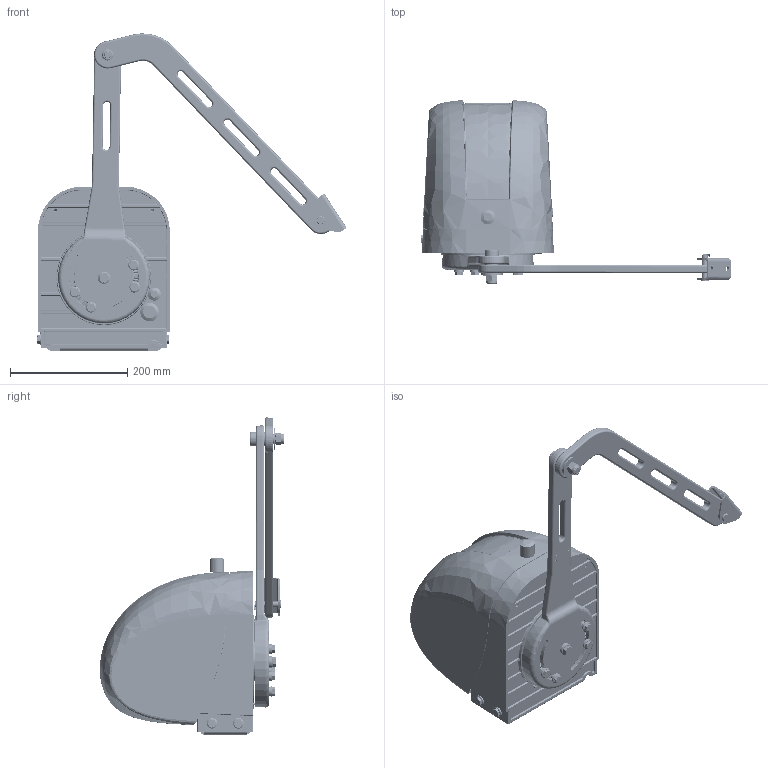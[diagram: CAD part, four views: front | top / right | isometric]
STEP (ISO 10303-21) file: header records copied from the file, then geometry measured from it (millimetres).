
FILE_DESCRIPTION (( 'STEP AP214' ), '1' );
FILE_NAME ('471V000_Knickarm.STEP', '2014-12-18T06:43:04', ( 'Admin' ), ( '' ), 'SwSTEP 2.0', 'SolidWorks 2014', '' );
FILE_SCHEMA (( 'AUTOMOTIVE_DESIGN' ));
Length unit declared in the file: millimetre
Products named in the file (70): 10029V000_Exzenter_Notentriegelung; 14725V000_Druckfeder_1,4x15x39; 10131V000_Niederhalter_Mikroschalter; M3x16_DIN7500TXCVZ; 14723_1-2_Klammer_Schloss_05; 10034V000_Motorflansch_Bearbeitet; 12314_Erdungsklemme_Roesch_248_738_009_4_2; 12229_Schraube_Taptite_M4x14; 50756_Spann-Sicherungsscheibe_gezahnt_M4; 14723_1-1_Schlüssel_05; 10114V000_Haube; 10143V000_Trafo_Halteblech; 14723V000_Burg H2A211_90 SA ( R )_E_05; 10028V000_Grundgehäuse; 50748_M10x20_DIN158_W158100VZ1020; 10525V000_eagle_200VA; 80105_M10x35_DIN158_W158100VZ1035; 10132V000_Niederhalter_Anschlag; 50744_M8x20_DIN158_W158100VZ820; 10128V000_igus_JFM-3539-16; 40028_Kombi_Blechschraube-6,5x19; 50742_Scheibe_DIN9021VZ13; 471V000_Knickarm; 50746_Sicherungsscheibe_RIPLOCK_53065STZL8; 10135V000_Bosch-AH_Motor_0_390_203_001; BG_Platine_Deckel; 14605V000_Mutter_Stop_M12_DIN 985 -6,8; 10126V000_Anschlusskabel_für_Bosch_AHC-P_Getriebemotor; Sicherungshalter_Platine; 40007_Sicherung KL10 f黵 8er Nut; 50747_Sicherungsscheibe_RIPLOCK_53065STZL10; 3940-2041_CrimpHousing; xP183_1_1801_Gehäuse_Housing_20140324; 10136V000_Ben-Bolzen10x45x39; Litze_250_gr黱; Funkmodul; 50741_Passschraube_M12_PSS12_912H830; 10129V000_EATON_M20_Membrantuelle_207602; Litze_250_weiss; 11540_3ew_20140611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
Assembly tree (99 placements, depth 4):
  471V000_Knickarm
    10028V000_Grundgehäuse
    10114V000_Haube
    10034V000_Motorflansch_Bearbeitet
    10029V000_Exzenter_Notentriegelung
    10032V000_Notlösehebel
    13908_Schraube_Taptite_M6x20_DIN7500-C_M 6 x 20  x11
    10126V000_Anschlusskabel_für_Bosch_AHC-P_Getriebemotor
      968182-1
      968183-1
      968052-1  x2
      929939-1  x2
      Litze_250_schwarz
      Litze_250_rot
      Litze_250_weiss
      Litze_250_gr黱
      3940-2041_CrimpHousing
    10135V000_Bosch-AH_Motor_0_390_203_001
    10128V000_igus_JFM-3539-16  x2
    10525V000_eagle_200VA
    10143V000_Trafo_Halteblech
    12229_Schraube_Taptite_M4x14  x3
    10131V000_Niederhalter_Mikroschalter
    14026V001_Microschalter_mit_Stecker_Index_4
      Switech_KW3A-01T6B-C200-08_Switech
    10118V000_Antriebsarm_90056 Bearbeitung 380mm
    10125V000_Sperrelement  x2
    10119V000_Torarm_90058 Bearbeitung L=389mm
    10138V000_igus_GFM-1618-12  x2
    12294V000_Torflügelbeschlag_twist_200
    50741_Passschraube_M12_PSS12_912H830
    10136V000_Ben-Bolzen10x45x39
    40007_Sicherung KL10 f黵 8er Nut
    14605V000_Mutter_Stop_M12_DIN 985 -6,8
    50742_Scheibe_DIN9021VZ13  x2
    10132V000_Niederhalter_Anschlag
    14723V000_Hebelschloss_H2A211_90_SA(R)_E_mit_Hebel_Schloss_Hebel_V001
      14723_1_Schloss_H2A211_90起SA(R)_E_f. Baugruppe
        14723V000_Burg H2A211_90 SA ( R )_E_05
        14723_1-1_Schlüssel_05
        14723_1-2_Klammer_Schloss_05
      14723_2_Riegel_400E9544
    10142V000_Wandbeschlag
    10127V000_EATON_M32_Membrantuelle_207602
    10117V000_Zugentlastungsblech
    50751_Sechskantkopfschraube_7500D_VZ816  x4
    10129V000_EATON_M20_Membrantuelle_207602
    50747_Sicherungsscheibe_RIPLOCK_53065STZL10
    50746_Sicherungsscheibe_RIPLOCK_53065STZL8  x4
    50744_M8x20_DIN158_W158100VZ820  x4
    50748_M10x20_DIN158_W158100VZ1020
    12314_Erdungsklemme_Roesch_248_738_009_4_2
    14725V000_Druckfeder_1,4x15x39
    50734_Schraube_f黵_Kunststoffe_Delta_6x25
    10134V000_Zentralwelle
    10133V000_Zahnrad_Z51_m2
    50738_Schraube_Kunststoff_Linsenkopf_3x10_TX10  x2
    10043V000_Akku_Ablage
    10044V000_Steuerungsgehäuse_Unterteil
    10113V000_Abdeckung_Steuerung
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Bounding box: 527.62 x 314.21 x 540.72 mm (x, y, z)
Volume: 4018789.3 mm3; surface area: 1579387 mm2
Topology: 108 solids, 738 shells, 17372 faces, 47058 edges, 30531 vertices
Faces by surface type: plane 7947, cylinder 5474, bspline 2686, cone 697, torus 376, sphere 192
Entity records: 736954 total; most frequent: CARTESIAN_POINT 307700, ORIENTED_EDGE 80179, DIRECTION 69382, EDGE_CURVE 41938, VERTEX_POINT 27455, AXIS2_PLACEMENT_3D 23168, VECTOR 23046, LINE 23046
